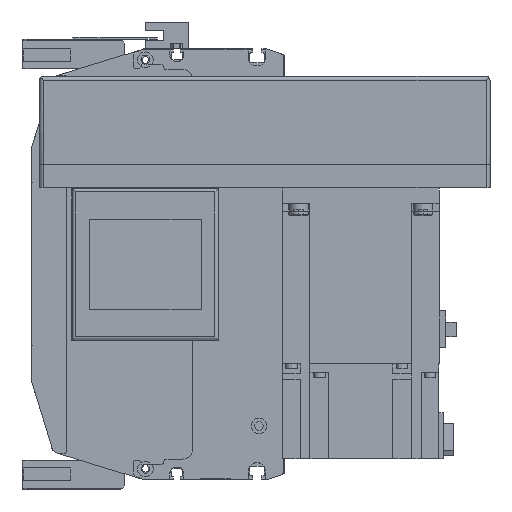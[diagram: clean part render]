
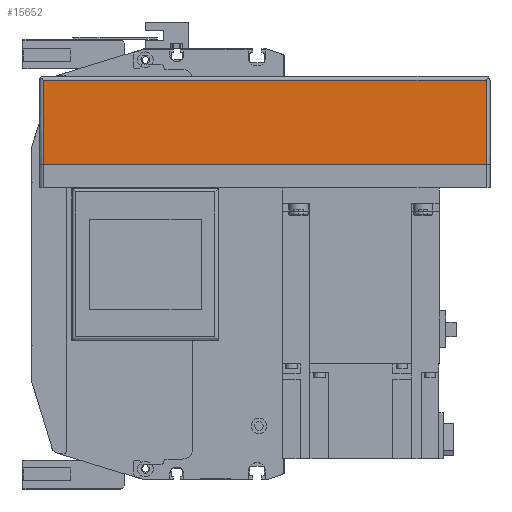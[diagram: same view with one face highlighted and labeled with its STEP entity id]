
A CAD part, left-side view. The second image highlights one B-rep face of the part: STEP entity #15652.
In plain terms, the highlighted planar face has unit normal (-1, 0, 0) as drawn and (0, -1, 0) by its records, which use the part's own axes.
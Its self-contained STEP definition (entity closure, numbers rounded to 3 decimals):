
#2531=ORIENTED_EDGE('',*,*,#6294,.F.);
#2532=ORIENTED_EDGE('',*,*,#6297,.T.);
#2533=ORIENTED_EDGE('',*,*,#6298,.T.);
#2534=ORIENTED_EDGE('',*,*,#6299,.F.);
#6294=EDGE_CURVE('',#8303,#8304,#9927,.T.);
#6297=EDGE_CURVE('',#8303,#8306,#9929,.T.);
#6298=EDGE_CURVE('',#8306,#8307,#9930,.T.);
#6299=EDGE_CURVE('',#8304,#8307,#9931,.T.);
#8303=VERTEX_POINT('',#24417);
#8304=VERTEX_POINT('',#24419);
#8306=VERTEX_POINT('',#24425);
#8307=VERTEX_POINT('',#24427);
#9927=LINE('',#24418,#11288);
#9929=LINE('',#24424,#11290);
#9930=LINE('',#24426,#11291);
#9931=LINE('',#24428,#11292);
#11288=VECTOR('',#19468,1000.);
#11290=VECTOR('',#19474,1000.);
#11291=VECTOR('',#19475,1000.);
#11292=VECTOR('',#19476,1000.);
#12474=EDGE_LOOP('',(#2531,#2532,#2533,#2534));
#13811=FACE_BOUND('',#12474,.T.);
#15004=PLANE('',#16788);
#15652=ADVANCED_FACE('',(#13811),#15004,.T.);
#16788=AXIS2_PLACEMENT_3D('',#24423,#19472,#19473);
#19468=DIRECTION('',(0.,0.,1.));
#19472=DIRECTION('',(0.,-1.,0.));
#19473=DIRECTION('',(0.,0.,-1.));
#19474=DIRECTION('',(1.,0.,0.));
#19475=DIRECTION('',(0.,0.,1.));
#19476=DIRECTION('',(1.,0.,0.));
#24417=CARTESIAN_POINT('',(-228.,-54.,-55.));
#24418=CARTESIAN_POINT('',(-228.,-54.,-57.));
#24419=CARTESIAN_POINT('',(-228.,-54.,-12.));
#24423=CARTESIAN_POINT('',(-228.,-54.,-57.));
#24424=CARTESIAN_POINT('',(-230.,-54.,-55.));
#24425=CARTESIAN_POINT('',(-2.,-54.,-55.));
#24426=CARTESIAN_POINT('',(-2.,-54.,-57.));
#24427=CARTESIAN_POINT('',(-2.,-54.,-12.));
#24428=CARTESIAN_POINT('',(-228.,-54.,-12.));
